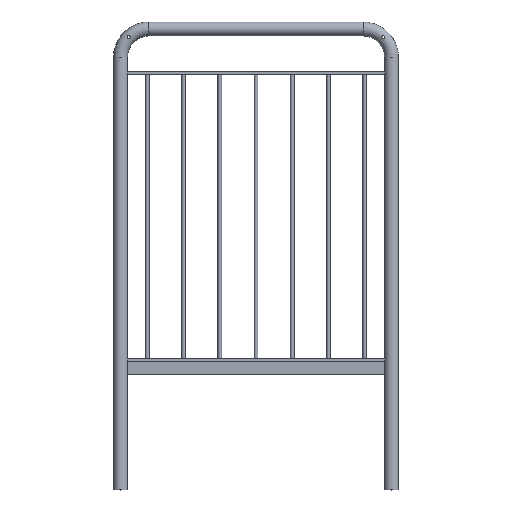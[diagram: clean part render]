
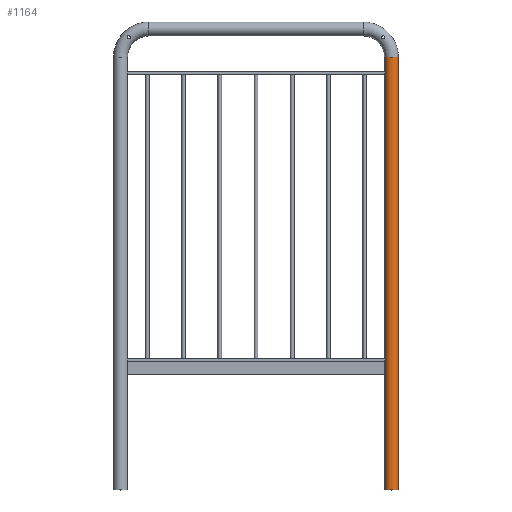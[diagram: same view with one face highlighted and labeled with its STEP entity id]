
A CAD part, top view. The second image highlights one B-rep face of the part: STEP entity #1164.
In plain terms, the highlighted cylindrical face has radius 21.2 mm (diameter 42.4 mm), a full revolution.
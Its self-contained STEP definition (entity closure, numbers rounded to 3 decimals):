
#288=CARTESIAN_POINT('',(802.526,1001.2,5.5));
#289=VERTEX_POINT('',#288);
#290=CARTESIAN_POINT('',(802.526,1001.2,5.5));
#291=CARTESIAN_POINT('',(802.526,1000.506,5.5));
#292=CARTESIAN_POINT('',(802.487,999.768,5.361));
#293=CARTESIAN_POINT('',(802.348,998.414,4.798));
#294=CARTESIAN_POINT('',(802.251,997.797,4.376));
#295=CARTESIAN_POINT('',(802.069,996.824,3.403));
#296=CARTESIAN_POINT('',(801.973,996.402,2.786));
#297=CARTESIAN_POINT('',(801.837,995.839,1.432));
#298=CARTESIAN_POINT('',(801.8,995.7,0.694));
#299=CARTESIAN_POINT('',(801.8,995.7,-0.694));
#300=CARTESIAN_POINT('',(801.837,995.839,-1.432));
#301=CARTESIAN_POINT('',(801.973,996.402,-2.786));
#302=CARTESIAN_POINT('',(802.069,996.824,-3.403));
#303=CARTESIAN_POINT('',(802.251,997.797,-4.376));
#304=CARTESIAN_POINT('',(802.348,998.414,-4.798));
#305=CARTESIAN_POINT('',(802.487,999.768,-5.361));
#306=CARTESIAN_POINT('',(802.526,1000.506,-5.5));
#307=CARTESIAN_POINT('',(802.526,1001.894,-5.5));
#308=CARTESIAN_POINT('',(802.487,1002.632,-5.361));
#309=CARTESIAN_POINT('',(802.348,1003.986,-4.798));
#310=CARTESIAN_POINT('',(802.251,1004.603,-4.376));
#311=CARTESIAN_POINT('',(802.069,1005.576,-3.403));
#312=CARTESIAN_POINT('',(801.973,1005.998,-2.786));
#313=CARTESIAN_POINT('',(801.837,1006.561,-1.432));
#314=CARTESIAN_POINT('',(801.8,1006.7,-0.694));
#315=CARTESIAN_POINT('',(801.8,1006.7,0.694));
#316=CARTESIAN_POINT('',(801.837,1006.561,1.432));
#317=CARTESIAN_POINT('',(801.973,1005.998,2.786));
#318=CARTESIAN_POINT('',(802.069,1005.576,3.403));
#319=CARTESIAN_POINT('',(802.251,1004.603,4.376));
#320=CARTESIAN_POINT('',(802.348,1003.986,4.798));
#321=CARTESIAN_POINT('',(802.487,1002.632,5.361));
#322=CARTESIAN_POINT('',(802.526,1001.894,5.5));
#323=CARTESIAN_POINT('',(802.526,1001.2,5.5));
#324=B_SPLINE_CURVE_WITH_KNOTS('',3,(#290,#291,#292,#293,#294,#295,#296,#297,#298,#299,#300,#301,#302,#303,#304,#305,#306,#307,#308,#309,#310,#311,#312,#313,#314,#315,#316,#317,#318,#319,#320,#321,#322,#323),.UNSPECIFIED.,.T.,.U.,(4,2,2,2,2,2,2,2,2,2,2,2,2,2,2,2,4),(0.0,0.208,0.416,0.625,0.833,1.041,1.249,1.457,1.666,1.874,2.082,2.29,2.498,2.707,2.915,3.123,3.331),.UNSPECIFIED.);
#325=EDGE_CURVE('',#289,#289,#324,.T.);
#417=CARTESIAN_POINT('',(843.474,1001.2,5.5));
#418=VERTEX_POINT('',#417);
#419=CARTESIAN_POINT('',(843.474,1001.2,5.5));
#420=CARTESIAN_POINT('',(843.474,1001.894,5.5));
#421=CARTESIAN_POINT('',(843.513,1002.632,5.361));
#422=CARTESIAN_POINT('',(843.652,1003.986,4.798));
#423=CARTESIAN_POINT('',(843.749,1004.603,4.376));
#424=CARTESIAN_POINT('',(843.931,1005.576,3.403));
#425=CARTESIAN_POINT('',(844.027,1005.998,2.786));
#426=CARTESIAN_POINT('',(844.163,1006.561,1.432));
#427=CARTESIAN_POINT('',(844.2,1006.7,0.694));
#428=CARTESIAN_POINT('',(844.2,1006.7,-0.694));
#429=CARTESIAN_POINT('',(844.163,1006.561,-1.432));
#430=CARTESIAN_POINT('',(844.027,1005.998,-2.786));
#431=CARTESIAN_POINT('',(843.931,1005.576,-3.403));
#432=CARTESIAN_POINT('',(843.749,1004.603,-4.376));
#433=CARTESIAN_POINT('',(843.652,1003.986,-4.798));
#434=CARTESIAN_POINT('',(843.513,1002.632,-5.361));
#435=CARTESIAN_POINT('',(843.474,1001.894,-5.5));
#436=CARTESIAN_POINT('',(843.474,1000.506,-5.5));
#437=CARTESIAN_POINT('',(843.513,999.768,-5.361));
#438=CARTESIAN_POINT('',(843.652,998.414,-4.798));
#439=CARTESIAN_POINT('',(843.749,997.797,-4.376));
#440=CARTESIAN_POINT('',(843.931,996.824,-3.403));
#441=CARTESIAN_POINT('',(844.027,996.402,-2.786));
#442=CARTESIAN_POINT('',(844.163,995.839,-1.432));
#443=CARTESIAN_POINT('',(844.2,995.7,-0.694));
#444=CARTESIAN_POINT('',(844.2,995.7,0.694));
#445=CARTESIAN_POINT('',(844.163,995.839,1.432));
#446=CARTESIAN_POINT('',(844.027,996.402,2.786));
#447=CARTESIAN_POINT('',(843.931,996.824,3.403));
#448=CARTESIAN_POINT('',(843.749,997.797,4.376));
#449=CARTESIAN_POINT('',(843.652,998.414,4.798));
#450=CARTESIAN_POINT('',(843.513,999.768,5.361));
#451=CARTESIAN_POINT('',(843.474,1000.506,5.5));
#452=CARTESIAN_POINT('',(843.474,1001.2,5.5));
#453=B_SPLINE_CURVE_WITH_KNOTS('',3,(#419,#420,#421,#422,#423,#424,#425,#426,#427,#428,#429,#430,#431,#432,#433,#434,#435,#436,#437,#438,#439,#440,#441,#442,#443,#444,#445,#446,#447,#448,#449,#450,#451,#452),.UNSPECIFIED.,.T.,.U.,(4,2,2,2,2,2,2,2,2,2,2,2,2,2,2,2,4),(0.0,0.208,0.416,0.625,0.833,1.041,1.249,1.457,1.666,1.874,2.082,2.29,2.498,2.707,2.915,3.123,3.331),.UNSPECIFIED.);
#454=EDGE_CURVE('',#418,#418,#453,.T.);
#1131=CARTESIAN_POINT('',(823.,1013.5,0.0));
#1132=DIRECTION('',(0.,-1.0,0.0));
#1133=DIRECTION('',(-1.0,0.0,0.0));
#1134=AXIS2_PLACEMENT_3D('',#1131,#1132,#1133);
#1135=CYLINDRICAL_SURFACE('',#1134,21.2);
#1136=CARTESIAN_POINT('',(844.2,-300.0,0.));
#1137=VERTEX_POINT('',#1136);
#1138=CARTESIAN_POINT('',(823.,-300.0,0.0));
#1139=DIRECTION('',(0.0,1.0,0.0));
#1140=DIRECTION('',(-1.0,0.0,0.0));
#1141=AXIS2_PLACEMENT_3D('',#1138,#1139,#1140);
#1142=CIRCLE('',#1141,21.2);
#1143=EDGE_CURVE('',#1137,#1137,#1142,.T.);
#1144=ORIENTED_EDGE('',*,*,#1143,.T.);
#1145=EDGE_LOOP('',(#1144));
#1146=FACE_OUTER_BOUND('',#1145,.T.);
#1147=ORIENTED_EDGE('',*,*,#454,.T.);
#1148=EDGE_LOOP('',(#1147));
#1149=FACE_BOUND('',#1148,.T.);
#1150=ORIENTED_EDGE('',*,*,#325,.T.);
#1151=EDGE_LOOP('',(#1150));
#1152=FACE_BOUND('',#1151,.T.);
#1153=CARTESIAN_POINT('',(844.2,1013.5,0.));
#1154=VERTEX_POINT('',#1153);
#1155=CARTESIAN_POINT('',(823.,1013.5,0.0));
#1156=DIRECTION('',(0.0,1.0,0.0));
#1157=DIRECTION('',(-1.0,0.0,0.0));
#1158=AXIS2_PLACEMENT_3D('',#1155,#1156,#1157);
#1159=CIRCLE('',#1158,21.2);
#1160=EDGE_CURVE('',#1154,#1154,#1159,.T.);
#1161=ORIENTED_EDGE('',*,*,#1160,.F.);
#1162=EDGE_LOOP('',(#1161));
#1163=FACE_BOUND('',#1162,.T.);
#1164=ADVANCED_FACE('',(#1146,#1149,#1152,#1163),#1135,.T.);
